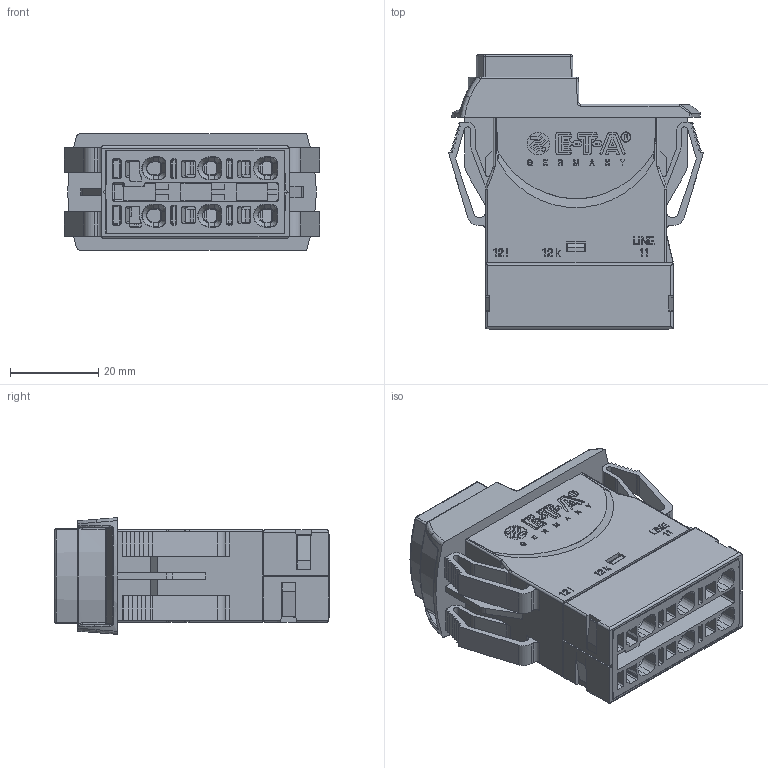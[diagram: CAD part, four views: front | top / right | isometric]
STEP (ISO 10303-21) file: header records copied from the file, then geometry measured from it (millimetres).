
FILE_DESCRIPTION((''),'2;1');
FILE_NAME('DUMMY-3120-N32G-PT','2019-08-07T12:46:10',('wschmidt'),(''),'CREO PARAMETRIC BY PTC INC, 2017260','CREO PARAMETRIC BY PTC INC, 2017260','');
FILE_SCHEMA(('AUTOMOTIVE_DESIGN { 1 0 10303 214 1 1 1 1 }'));
Products named in the file (1): DUMMY-3120-N32G-PT
Bounding box: 57.8 x 62.14 x 26.43 mm (x, y, z)
Volume: 43405.3 mm3; surface area: 27790.8 mm2
Topology: 1 solids, 14 shells, 3492 faces, 9480 edges, 6092 vertices
Faces by surface type: plane 1780, extrusion 834, cylinder 528, bspline 180, cone 62, torus 54, sphere 54
Entity records: 126237 total; most frequent: CARTESIAN_POINT 42327, ORIENTED_EDGE 18956, DIRECTION 13732, EDGE_CURVE 9478, VECTOR 6966, LINE 6132, VERTEX_POINT 6092, EDGE_LOOP 3702
